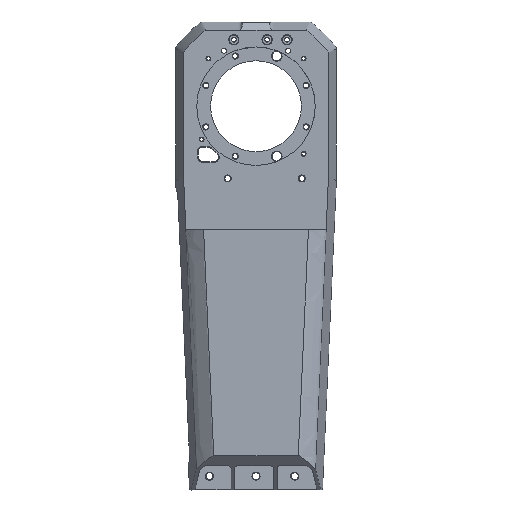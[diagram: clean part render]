
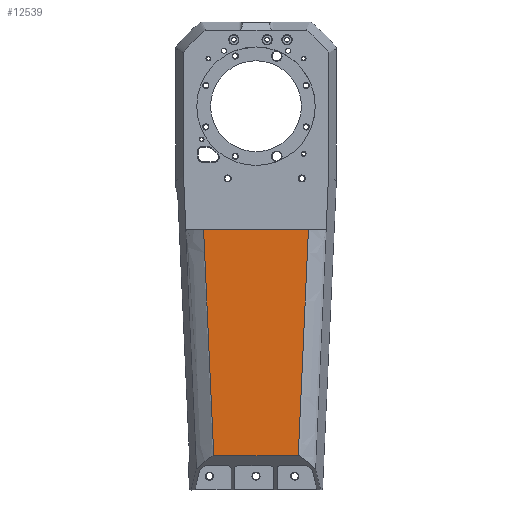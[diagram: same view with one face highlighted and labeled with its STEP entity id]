
A CAD part, left-side view. The second image highlights one B-rep face of the part: STEP entity #12539.
In plain terms, the highlighted planar face has unit normal (-1, 0, 0).
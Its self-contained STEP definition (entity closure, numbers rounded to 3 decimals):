
#3352=CARTESIAN_POINT('',(-110.,38.164,31.));
#3463=CARTESIAN_POINT('',(-110.,47.313,235.));
#3507=DIRECTION('',(0.,-1.,0.));
#3508=VECTOR('',#3507,76.328);
#3509=CARTESIAN_POINT('',(-110.,38.164,31.));
#3510=LINE('',#3509,#3508);
#3839=DIRECTION('',(0.,0.045,0.999));
#3840=VECTOR('',#3839,204.205);
#3841=CARTESIAN_POINT('',(-110.,38.164,31.));
#3842=LINE('',#3841,#3840);
#3843=DIRECTION('',(0.,-1.,0.));
#3844=VECTOR('',#3843,94.625);
#3845=CARTESIAN_POINT('',(-110.,47.313,235.));
#3846=LINE('',#3845,#3844);
#3847=DIRECTION('',(0.,0.045,-0.999));
#3848=VECTOR('',#3847,204.205);
#3849=CARTESIAN_POINT('',(-110.,-47.313,235.));
#3850=LINE('',#3849,#3848);
#7831=VERTEX_POINT('',#3352);
#7832=VERTEX_POINT('',#3463);
#7855=CARTESIAN_POINT('',(-110.,-38.164,31.));
#7856=VERTEX_POINT('',#7855);
#7911=CARTESIAN_POINT('',(-110.,-47.313,235.));
#7912=VERTEX_POINT('',#7911);
#12526=CARTESIAN_POINT('',(-110.,0.,0.));
#12527=DIRECTION('',(-1.,0.,0.));
#12528=DIRECTION('',(0.,1.,0.));
#12529=AXIS2_PLACEMENT_3D('',#12526,#12527,#12528);
#12530=PLANE('',#12529);
#12531=ORIENTED_EDGE('',*,*,#12023,.F.);
#12532=ORIENTED_EDGE('',*,*,#11969,.T.);
#12534=ORIENTED_EDGE('',*,*,#12533,.T.);
#12536=ORIENTED_EDGE('',*,*,#12535,.T.);
#12537=EDGE_LOOP('',(#12531,#12532,#12534,#12536));
#12538=FACE_OUTER_BOUND('',#12537,.F.);
#12539=ADVANCED_FACE('',(#12538),#12530,.T.);
#11969=EDGE_CURVE('',#7831,#7832,#3842,.T.);
#12023=EDGE_CURVE('',#7831,#7856,#3510,.T.);
#12533=EDGE_CURVE('',#7832,#7912,#3846,.T.);
#12535=EDGE_CURVE('',#7912,#7856,#3850,.T.);
